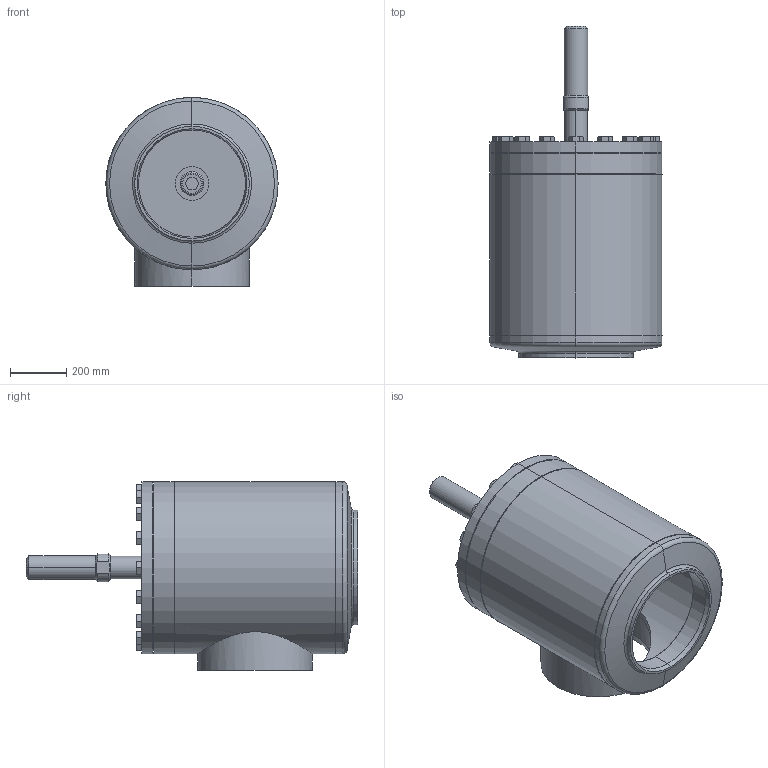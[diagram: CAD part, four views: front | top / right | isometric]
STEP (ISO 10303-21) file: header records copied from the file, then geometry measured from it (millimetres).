
FILE_DESCRIPTION (( 'STEP AP214' ), '1' );
FILE_NAME ('AVR26400C27A5A3AA00_DN400_R1_PS25.STEP', '2010-06-16T09:53:37', ( 'Eckhard Grams' ), ( 'AWP Kälte Klima Armaturen GmbH' ), 'SwSTEP 2.0', 'SolidWorks 2002296', '' );
FILE_SCHEMA (( 'AUTOMOTIVE_DESIGN' ));
Length unit declared in the file: millimetre
Products named in the file (15): AVR26400C27A5A3AA00_DN400_R1_PS25; AVR26300B27_Deck+Schr-DN400_Standard; Deckel,kpl26300B27-DN400_Standard; Scheibe f Deckel26300-DN400_Standard; Buchse1 f Deckel26300-DN400_Standard; bead-deck263-400_Standard; Sechskantschraube-DIN933_M30x 80; Kappe26300_DN400geschw_Standard; Geh,kpl 26300B27-5030AA1_DN400_R1_Standard; Kopfstück26300-DN400_Standard; Gehäuse26300-DN400_Standard; Boden26300-DN400_Standard; Rohrstutzen-A26300-DN400_R1_Standard; bead-DN400-2_Standard; bead-DN400-1_Standard
Assembly tree (29 placements, depth 4):
  AVR26400C27A5A3AA00_DN400_R1_PS25
    Kappe26300_DN400geschw_Standard
    AVR26300B27_Deck+Schr-DN400_Standard
      Sechskantschraube-DIN933_M30x 80  x16
      Deckel,kpl26300B27-DN400_Standard
        bead-deck263-400_Standard
        Buchse1 f Deckel26300-DN400_Standard
        Scheibe f Deckel26300-DN400_Standard
    Geh,kpl 26300B27-5030AA1_DN400_R1_Standard
      Gehäuse26300-DN400_Standard
      Kopfstück26300-DN400_Standard
      Rohrstutzen-A26300-DN400_R1_Standard
      Boden26300-DN400_Standard
      bead-DN400-2_Standard
      bead-DN400-1_Standard
Bounding box: 610.47 x 1177 x 670.25 mm (x, y, z)
Volume: 58016761 mm3; surface area: 5196657.4 mm2
Topology: 26 solids, 26 shells, 559 faces, 1194 edges, 714 vertices
Faces by surface type: cone 244, plane 178, cylinder 125, bspline 8, torus 4
Entity records: 8189 total; most frequent: CARTESIAN_POINT 3102, DIRECTION 988, ORIENTED_EDGE 828, AXIS2_PLACEMENT_3D 431, EDGE_CURVE 414, VERTEX_POINT 264, EDGE_LOOP 248, CIRCLE 220
